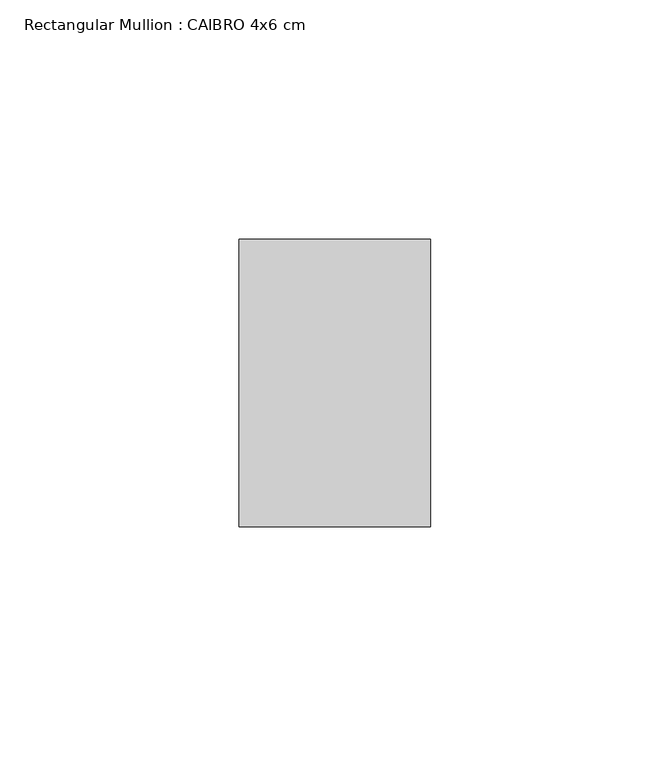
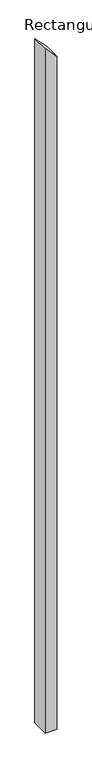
"""IFC4 building model written with IfcOpenShell, lengths in millimetres: member geometry, Rectangular Mullion : CAIBRO 4x6 cm."""

import ifcopenshell
import ifcopenshell.guid

model = None  # the IFC model being written
_history = None  # IfcOwnerHistory: only IFC2X3 demands one
_inside = {}  # id of a spatial element -> (the spatial element, [elements in it])
_under = {}  # id of a project, library or spatial element -> (it, [spatial elements below it])
_declared = {}  # id of a project -> (the project, [libraries it declares])
_typed = {}  # id of a type object -> (the type object, [elements of that type])
_made_of = {}  # id of a material, layer set ... -> (it, [elements and type objects made of it])


def new_model(schema):
    """Start an empty IFC model of exactly this schema.

    Asked for "IFC4X3", IfcOpenShell would pick the latest addendum, in which some entities
    have other attributes; the version numbers below select the first issue.
    IFC2X3 requires an IfcOwnerHistory on every rooted entity: one is made here for all.
    """
    global model, _history
    if schema == "IFC4X3":
        model = ifcopenshell.file(schema_version=(4, 3, 0, 0))
    else:
        model = ifcopenshell.file(schema=schema)
    _inside.clear()
    _under.clear()
    _declared.clear()
    _typed.clear()
    _made_of.clear()
    _history = None
    if model.schema == "IFC2X3":
        org = make("IfcOrganization", Name="unknown")
        user = make(
            "IfcPersonAndOrganization",
            ThePerson=make("IfcPerson", FamilyName="unknown"),
            TheOrganization=org,
        )
        app = make(
            "IfcApplication",
            ApplicationDeveloper=org,
            Version="unknown",
            ApplicationFullName="unknown",
            ApplicationIdentifier="unknown",
        )
        _history = make(
            "IfcOwnerHistory",
            OwningUser=user,
            OwningApplication=app,
            ChangeAction="ADDED",
            CreationDate=0,
        )
    return model


def make(cls, **values):
    """One entity of the class cls with the attributes given. An attribute that is None is left unset."""
    return model.create_entity(
        cls, **{name: value for name, value in values.items() if value is not None}
    )


def rooted(cls, **values):
    """An entity with a GlobalId (a new one), such as an element, a storey or a relation."""
    return make(cls, GlobalId=ifcopenshell.guid.new(), OwnerHistory=_history, **values)


def si_unit(unit_type, name, prefix=None):
    """IfcSIUnit, for example si_unit("LENGTHUNIT", "METRE", prefix="MILLI")."""
    return make("IfcSIUnit", UnitType=unit_type, Prefix=prefix, Name=name)


def assignment(units):
    """IfcUnitAssignment: the units of a project."""
    return None if units is None else make("IfcUnitAssignment", Units=units)


def point(xyz):
    """IfcCartesianPoint."""
    return None if xyz is None else make("IfcCartesianPoint", Coordinates=xyz)


def direction(xyz):
    """IfcDirection."""
    return None if xyz is None else make("IfcDirection", DirectionRatios=xyz)


def frame(location, z_axis=None, x_axis=None):
    """IfcAxis2Placement3D, a coordinate frame: its origin and axes. An axis left out is left unset."""
    return make(
        "IfcAxis2Placement3D",
        Location=point(location),
        Axis=direction(z_axis),
        RefDirection=direction(x_axis),
    )


def origin():
    """The frame at (0, 0, 0) with its axes left unset."""
    return frame((0.0, 0.0, 0.0))


def place(relative_to, where):
    """IfcLocalPlacement: puts the frame where relative to a parent placement (None: the world)."""
    return make(
        "IfcLocalPlacement", PlacementRelTo=relative_to, RelativePlacement=where
    )


def context(
    kind, dimensions, precision=None, world=None, true_north=None, identifier=None
):
    """IfcGeometricRepresentationContext, for example the 3D "Model" context."""
    return make(
        "IfcGeometricRepresentationContext",
        ContextIdentifier=identifier,
        ContextType=kind,
        CoordinateSpaceDimension=dimensions,
        Precision=precision,
        WorldCoordinateSystem=world,
        TrueNorth=true_north,
    )


def project(units=None, contexts=None):
    """IfcProject with its units and contexts."""
    return rooted(
        "IfcProject",
        Name="project",
        RepresentationContexts=contexts,
        UnitsInContext=assignment(units),
    )


def spatial(cls, under=None, at=None, **own):
    """A site, building, storey or space (cls), placed at a placement, below another one or the project."""
    s = rooted(cls, ObjectPlacement=at, **own)
    if under is not None:
        _under.setdefault(under.id(), (under, []))[1].append(s)
    return s


def polyline(points):
    """IfcPolyline through the points."""
    return make("IfcPolyline", Points=[point(p) for p in points])


def outline(outer, holes=None, kind="AREA"):
    """IfcArbitraryClosedProfileDef: a profile drawn as a closed curve; with holes, ...WithVoids."""
    if holes is None:
        return make("IfcArbitraryClosedProfileDef", ProfileType=kind, OuterCurve=outer)
    return make(
        "IfcArbitraryProfileDefWithVoids",
        ProfileType=kind,
        OuterCurve=outer,
        InnerCurves=holes,
    )


def extrude(swept, where, along, depth):
    """IfcExtrudedAreaSolid: the profile swept, set in the frame where, extruded along a direction by depth."""
    return make(
        "IfcExtrudedAreaSolid",
        SweptArea=swept,
        Position=where,
        ExtrudedDirection=direction(along),
        Depth=depth,
    )


def shape(context_of_items, identifier, shape_type, items):
    """IfcShapeRepresentation: the items that make up one representation, for example the "Body"."""
    return make(
        "IfcShapeRepresentation",
        ContextOfItems=context_of_items,
        RepresentationIdentifier=identifier,
        RepresentationType=shape_type,
        Items=items,
    )


def source(mapping_origin, context_of_items, identifier, shape_type, items):
    """IfcRepresentationMap: a shape defined once, which mapped items show again and again."""
    return make(
        "IfcRepresentationMap",
        MappingOrigin=mapping_origin,
        MappedRepresentation=shape(context_of_items, identifier, shape_type, items),
    )


def transform(
    local_origin,
    x_axis=None,
    y_axis=None,
    z_axis=None,
    scale=None,
    scale2=None,
    scale3=None,
    uniform=True,
):
    """IfcCartesianTransformationOperator3D, or its non-uniform kind. x_axis, y_axis, z_axis: its Axis1, 2, 3."""
    if uniform:
        return make(
            "IfcCartesianTransformationOperator3D",
            Axis1=direction(x_axis),
            Axis2=direction(y_axis),
            LocalOrigin=point(local_origin),
            Scale=scale,
            Axis3=direction(z_axis),
        )
    return make(
        "IfcCartesianTransformationOperator3DnonUniform",
        Axis1=direction(x_axis),
        Axis2=direction(y_axis),
        LocalOrigin=point(local_origin),
        Scale=scale,
        Axis3=direction(z_axis),
        Scale2=scale2,
        Scale3=scale3,
    )


def mapped(mapping_source, mapping_target):
    """IfcMappedItem: shows the shape of a source again, moved by a transform."""
    return make(
        "IfcMappedItem", MappingSource=mapping_source, MappingTarget=mapping_target
    )


def made_of(thing, what):
    """Note that an element or type object is made of a material, layer set ...; save() writes the relation."""
    if what is not None:
        _made_of.setdefault(what.id(), (what, []))[1].append(thing)
    return thing


def element(
    cls,
    number,
    at=None,
    inside=None,
    cuts=None,
    type_object=None,
    material=None,
    context=None,
    identifier="Body",
    shape_type=None,
    held_by="IfcProductDefinitionShape",
    body=None,
    shapes=None,
    **own,
):
    """One element of the class cls, such as IfcWall. Its Tag is "e" and its number.

    at: its placement. inside: the storey or other place that contains it. cuts: it is an
    opening in that element (IfcRelVoidsElement). A single representation is given by context,
    identifier, shape_type and body (its items); several are given by shapes. held_by: the class
    of the entity that holds the representations. save() writes the other relations.
    """
    e = rooted(cls, Tag="e%d" % number, ObjectPlacement=at, **own)
    if body is not None:
        shapes = [shape(context, identifier, shape_type, body)]
    if shapes is not None:
        e.Representation = make(held_by, Representations=shapes)
    if inside is not None:
        _inside.setdefault(inside.id(), (inside, []))[1].append(e)
    if cuts is not None:
        rooted(
            "IfcRelVoidsElement", RelatingBuildingElement=cuts, RelatedOpeningElement=e
        )
    if type_object is not None:
        _typed.setdefault(type_object.id(), (type_object, []))[1].append(e)
    return made_of(e, material)


def aggregate(whole, parts):
    """IfcRelAggregates: a whole, such as a stair, and the parts it consists of."""
    return rooted("IfcRelAggregates", RelatingObject=whole, RelatedObjects=parts)


def save(model, path):
    """Write the relations noted so far, then the file.

    IfcRelAggregates (storeys below a building ...), IfcRelContainedInSpatialStructure (elements
    in a storey), IfcRelDefinesByType, IfcRelAssociatesMaterial and IfcRelDeclares: one each for
    every whole, place, type object, material and project.
    """
    for whole, parts in _under.values():
        aggregate(whole, parts)
    for where, things in _inside.values():
        rooted(
            "IfcRelContainedInSpatialStructure",
            RelatedElements=things,
            RelatingStructure=where,
        )
    for kind, things in _typed.values():
        rooted("IfcRelDefinesByType", RelatedObjects=things, RelatingType=kind)
    for what, things in _made_of.values():
        rooted("IfcRelAssociatesMaterial", RelatedObjects=things, RelatingMaterial=what)
    for by, libraries in _declared.values():
        rooted("IfcRelDeclares", RelatingContext=by, RelatedDefinitions=libraries)
    model.write(path)


def rectangular_mullion_caibro_4x6_cm_75b900af(model_context):
    return source(origin(), model_context, "Body", "SweptSolid", [
        extrude(outline(polyline([(-77.109599, 20.0), (-36.6621022, -20.0), (-2491.9745808, -20.0), (-2491.9745808, 20.0), (-77.109599, 20.0)])), frame((0.0, 0.0, 0.0), z_axis=(0.0, 1.0, 0.0), x_axis=(0.0, 0.0, 1.0)), (0.0, 0.0, 1.0), 60.0),
    ])


if __name__ == "__main__":
    model = new_model("IFC4")
    model_context = context("Model", 3, world=origin())
    ifc_project = project(units=[si_unit("LENGTHUNIT", "METRE", prefix="MILLI")], contexts=[model_context])
    site = spatial("IfcSite", under=ifc_project)
    building = spatial("IfcBuilding", under=site)
    placement = place(None, origin())
    rectangular_mullion_caibro_4x6_cm_shape = rectangular_mullion_caibro_4x6_cm_75b900af(model_context)
    element("IfcMember", 1, ObjectType="Rectangular Mullion : CAIBRO 4x6 cm", at=placement, inside=building, context=model_context, shape_type="MappedRepresentation", body=[
        mapped(rectangular_mullion_caibro_4x6_cm_shape, transform((0.0, 0.0, 0.0), x_axis=(1.0, 0.0, 0.0), y_axis=(0.0, 1.0, 0.0), z_axis=(0.0, 0.0, 1.0))),
    ])
    save(model, "model.ifc")
